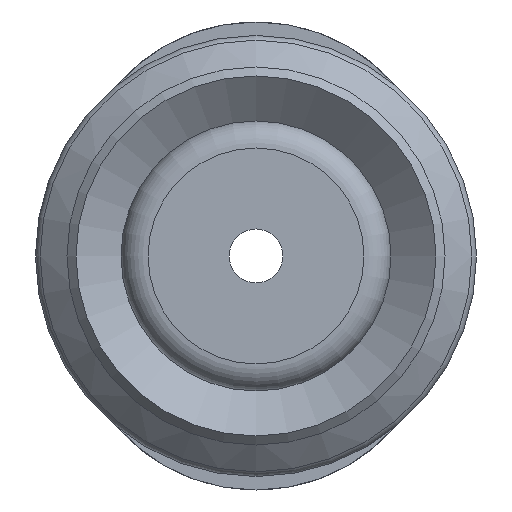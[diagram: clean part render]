
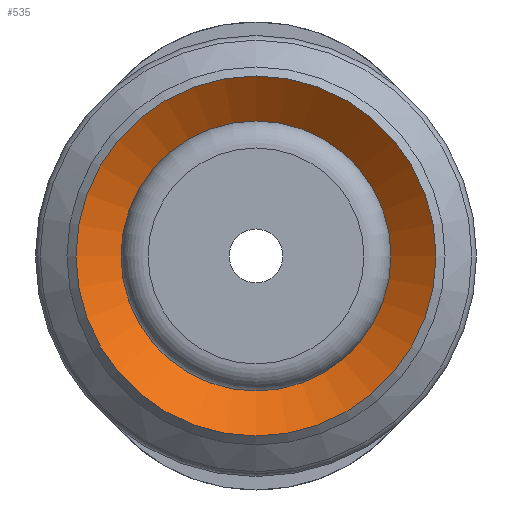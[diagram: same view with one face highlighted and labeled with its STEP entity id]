
A CAD part, front view. The second image highlights one B-rep face of the part: STEP entity #535.
In plain terms, the highlighted conical face has half-angle 52 degrees and reference radius 3 mm.
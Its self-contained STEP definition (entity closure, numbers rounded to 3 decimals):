
#535=ADVANCED_FACE('',(#789,#790),#791,.F.);
#789=FACE_BOUND('',#1138,.T.);
#790=FACE_OUTER_BOUND('',#1139,.T.);
#791=CONICAL_SURFACE('',#1140,3.0,0.908);
#1138=EDGE_LOOP('',(#2034));
#1139=EDGE_LOOP('',(#2035));
#1140=AXIS2_PLACEMENT_3D('',#2036,#2037,#2038);
#2034=ORIENTED_EDGE('',*,*,#2544,.F.);
#2035=ORIENTED_EDGE('',*,*,#2541,.T.);
#2036=CARTESIAN_POINT('',(0.0,7.741,0.));
#2037=DIRECTION('',(-0.0,-1.0,0.));
#2038=DIRECTION('',(0.0,0.,-1.0));
#2541=EDGE_CURVE('',#2875,#2875,#2876,.T.);
#2544=EDGE_CURVE('',#2881,#2881,#2882,.T.);
#2875=VERTEX_POINT('',#3581);
#2876=CIRCLE('',#3582,4.0);
#2881=VERTEX_POINT('',#3587);
#2882=CIRCLE('',#3588,3.0);
#3581=CARTESIAN_POINT('',(0.0,6.96,-4.0));
#3582=AXIS2_PLACEMENT_3D('',#4230,#4231,#4232);
#3587=CARTESIAN_POINT('',(0.0,7.741,-3.0));
#3588=AXIS2_PLACEMENT_3D('',#4239,#4240,#4241);
#4230=CARTESIAN_POINT('',(0.0,6.96,0.0));
#4231=DIRECTION('',(0.0,-1.0,0.));
#4232=DIRECTION('',(0.0,0.,-1.0));
#4239=CARTESIAN_POINT('',(0.0,7.741,0.));
#4240=DIRECTION('',(0.0,-1.0,0.));
#4241=DIRECTION('',(0.0,0.,-1.0));
